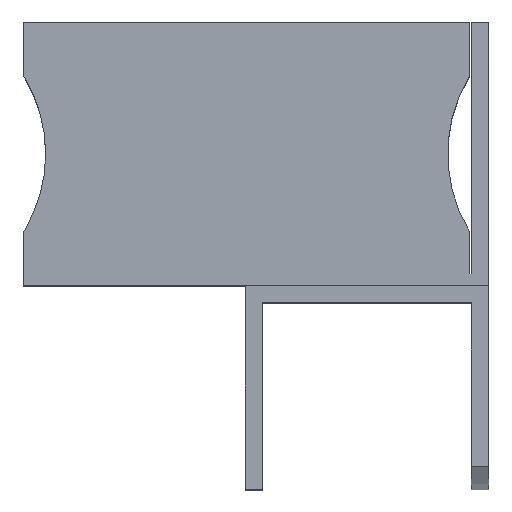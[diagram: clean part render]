
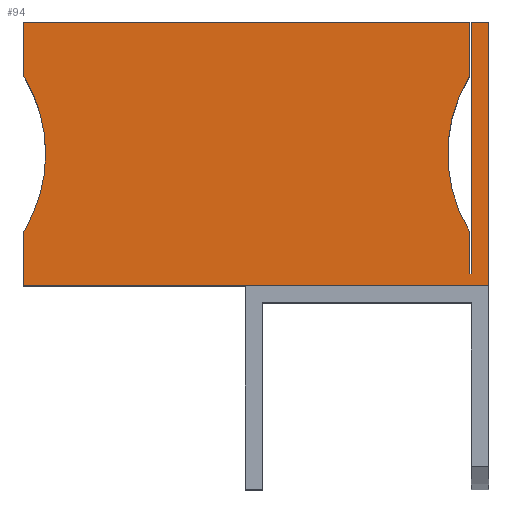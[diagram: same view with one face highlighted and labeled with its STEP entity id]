
A CAD part, top view. The second image highlights one B-rep face of the part: STEP entity #94.
In plain terms, the highlighted planar face has unit normal (0, 0, 1).
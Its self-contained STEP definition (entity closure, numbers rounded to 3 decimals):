
#2 = VECTOR ( 'NONE', #678, 1000. ) ;
#3 = AXIS2_PLACEMENT_3D ( 'NONE', #362, #909, #744 ) ;
#30 = DIRECTION ( 'NONE',  ( -1., 0., 0. ) ) ;
#42 = EDGE_CURVE ( 'NONE', #784, #576, #541, .T. ) ;
#57 = DIRECTION ( 'NONE',  ( -1., 0., 0. ) ) ;
#90 = CARTESIAN_POINT ( 'NONE',  ( 14., 51.6, 22.1 ) ) ;
#94 = ADVANCED_FACE ( 'NONE', ( #796 ), #235, .T. ) ;
#101 = AXIS2_PLACEMENT_3D ( 'NONE', #396, #957, #30 ) ;
#106 = VERTEX_POINT ( 'NONE', #158 ) ;
#117 = VERTEX_POINT ( 'NONE', #534 ) ;
#123 = ORIENTED_EDGE ( 'NONE', *, *, #197, .F. ) ;
#156 = CARTESIAN_POINT ( 'NONE',  ( 14., 17.9, 22.1 ) ) ;
#158 = CARTESIAN_POINT ( 'NONE',  ( 16.3, 16.3, 22.1 ) ) ;
#183 = AXIS2_PLACEMENT_3D ( 'NONE', #1168, #1096, #786 ) ;
#185 = EDGE_CURVE ( 'NONE', #383, #309, #368, .T. ) ;
#197 = EDGE_CURVE ( 'NONE', #876, #784, #700, .T. ) ;
#214 = ORIENTED_EDGE ( 'NONE', *, *, #874, .F. ) ;
#226 = DIRECTION ( 'NONE',  ( 0., 1., 0. ) ) ;
#235 = PLANE ( 'NONE',  #183 ) ;
#245 = EDGE_CURVE ( 'NONE', #409, #383, #657, .T. ) ;
#256 = CARTESIAN_POINT ( 'NONE',  ( 14., 51.6, 22.1 ) ) ;
#275 = VECTOR ( 'NONE', #277, 1000. ) ;
#277 = DIRECTION ( 'NONE',  ( 1., 0., 0. ) ) ;
#292 = VECTOR ( 'NONE', #313, 1000. ) ;
#309 = VERTEX_POINT ( 'NONE', #1033 ) ;
#313 = DIRECTION ( 'NONE',  ( 0., -1., 0. ) ) ;
#324 = LINE ( 'NONE', #330, #292 ) ;
#325 = ORIENTED_EDGE ( 'NONE', *, *, #433, .F. ) ;
#326 = CARTESIAN_POINT ( 'NONE',  ( 14., 51.6, 22.1 ) ) ;
#329 = EDGE_CURVE ( 'NONE', #410, #876, #889, .T. ) ;
#330 = CARTESIAN_POINT ( 'NONE',  ( 13.8, 51.6, 22.1 ) ) ;
#332 = CARTESIAN_POINT ( 'NONE',  ( -46., 23.45, 22.1 ) ) ;
#362 = CARTESIAN_POINT ( 'NONE',  ( 30.822, 33.95, 22.1 ) ) ;
#368 = LINE ( 'NONE', #90, #275 ) ;
#373 = VECTOR ( 'NONE', #226, 1000. ) ;
#378 = ORIENTED_EDGE ( 'NONE', *, *, #461, .F. ) ;
#383 = VERTEX_POINT ( 'NONE', #326 ) ;
#391 = ORIENTED_EDGE ( 'NONE', *, *, #833, .T. ) ;
#396 = CARTESIAN_POINT ( 'NONE',  ( -63.022, 33.95, 22.1 ) ) ;
#409 = VERTEX_POINT ( 'NONE', #430 ) ;
#410 = VERTEX_POINT ( 'NONE', #332 ) ;
#423 = ORIENTED_EDGE ( 'NONE', *, *, #491, .T. ) ;
#424 = DIRECTION ( 'NONE',  ( 0., 1., 0. ) ) ;
#430 = CARTESIAN_POINT ( 'NONE',  ( 14., 17.9, 22.1 ) ) ;
#433 = EDGE_CURVE ( 'NONE', #106, #1137, #1090, .T. ) ;
#440 = CIRCLE ( 'NONE', #3, 20. ) ;
#441 = DIRECTION ( 'NONE',  ( 0., 1., 0. ) ) ;
#448 = CARTESIAN_POINT ( 'NONE',  ( -46., 44.45, 22.1 ) ) ;
#452 = CARTESIAN_POINT ( 'NONE',  ( 14., 16.3, 22.1 ) ) ;
#461 = EDGE_CURVE ( 'NONE', #719, #409, #631, .T. ) ;
#466 = EDGE_CURVE ( 'NONE', #1137, #410, #614, .T. ) ;
#477 = CARTESIAN_POINT ( 'NONE',  ( 13.8, 51.6, 22.1 ) ) ;
#491 = EDGE_CURVE ( 'NONE', #106, #309, #1067, .T. ) ;
#534 = CARTESIAN_POINT ( 'NONE',  ( 13.8, 44.45, 22.1 ) ) ;
#541 = LINE ( 'NONE', #1186, #983 ) ;
#554 = DIRECTION ( 'NONE',  ( -1., 0., 0. ) ) ;
#555 = EDGE_CURVE ( 'NONE', #816, #719, #852, .T. ) ;
#576 = VERTEX_POINT ( 'NONE', #938 ) ;
#614 = LINE ( 'NONE', #702, #1060 ) ;
#631 = LINE ( 'NONE', #156, #752 ) ;
#647 = VECTOR ( 'NONE', #746, 1000. ) ;
#652 = EDGE_CURVE ( 'NONE', #766, #117, #324, .T. ) ;
#657 = LINE ( 'NONE', #452, #647 ) ;
#663 = CARTESIAN_POINT ( 'NONE',  ( -63.022, 33.95, 22.1 ) ) ;
#666 = ORIENTED_EDGE ( 'NONE', *, *, #652, .F. ) ;
#678 = DIRECTION ( 'NONE',  ( 0., -1., 0. ) ) ;
#684 = ORIENTED_EDGE ( 'NONE', *, *, #555, .F. ) ;
#700 = CIRCLE ( 'NONE', #1122, 20. ) ;
#702 = CARTESIAN_POINT ( 'NONE',  ( -46., 16.3, 22.1 ) ) ;
#709 = CARTESIAN_POINT ( 'NONE',  ( 14., 16.3, 22.1 ) ) ;
#719 = VERTEX_POINT ( 'NONE', #955 ) ;
#744 = DIRECTION ( 'NONE',  ( 1., 0., 0. ) ) ;
#746 = DIRECTION ( 'NONE',  ( 0., 1., 0. ) ) ;
#752 = VECTOR ( 'NONE', #1184, 1000. ) ;
#766 = VERTEX_POINT ( 'NONE', #1055 ) ;
#780 = ORIENTED_EDGE ( 'NONE', *, *, #466, .F. ) ;
#784 = VERTEX_POINT ( 'NONE', #448 ) ;
#786 = DIRECTION ( 'NONE',  ( 1., 0., 0. ) ) ;
#796 = FACE_OUTER_BOUND ( 'NONE', #869, .T. ) ;
#816 = VERTEX_POINT ( 'NONE', #1193 ) ;
#827 = DIRECTION ( 'NONE',  ( 0., 0., 1. ) ) ;
#833 = EDGE_CURVE ( 'NONE', #766, #576, #1188, .T. ) ;
#852 = LINE ( 'NONE', #477, #2 ) ;
#854 = ORIENTED_EDGE ( 'NONE', *, *, #245, .F. ) ;
#869 = EDGE_LOOP ( 'NONE', ( #214, #666, #391, #1052, #123, #1159, #780, #325, #423, #1001, #854, #378, #684 ) ) ;
#874 = EDGE_CURVE ( 'NONE', #117, #816, #440, .T. ) ;
#876 = VERTEX_POINT ( 'NONE', #1110 ) ;
#882 = CARTESIAN_POINT ( 'NONE',  ( 16.3, 16.3, 22.1 ) ) ;
#889 = CIRCLE ( 'NONE', #101, 20. ) ;
#909 = DIRECTION ( 'NONE',  ( 0., 0., 1. ) ) ;
#938 = CARTESIAN_POINT ( 'NONE',  ( -46., 51.6, 22.1 ) ) ;
#954 = CARTESIAN_POINT ( 'NONE',  ( -46., 16.3, 22.1 ) ) ;
#955 = CARTESIAN_POINT ( 'NONE',  ( 13.8, 17.9, 22.1 ) ) ;
#957 = DIRECTION ( 'NONE',  ( 0., 0., 1. ) ) ;
#983 = VECTOR ( 'NONE', #441, 1000. ) ;
#1001 = ORIENTED_EDGE ( 'NONE', *, *, #185, .F. ) ;
#1033 = CARTESIAN_POINT ( 'NONE',  ( 16.3, 51.6, 22.1 ) ) ;
#1052 = ORIENTED_EDGE ( 'NONE', *, *, #42, .F. ) ;
#1055 = CARTESIAN_POINT ( 'NONE',  ( 13.8, 51.6, 22.1 ) ) ;
#1060 = VECTOR ( 'NONE', #424, 1000. ) ;
#1062 = VECTOR ( 'NONE', #57, 1000. ) ;
#1067 = LINE ( 'NONE', #882, #373 ) ;
#1090 = LINE ( 'NONE', #709, #1160 ) ;
#1096 = DIRECTION ( 'NONE',  ( 0., 0., 1. ) ) ;
#1110 = CARTESIAN_POINT ( 'NONE',  ( -43.022, 33.95, 22.1 ) ) ;
#1122 = AXIS2_PLACEMENT_3D ( 'NONE', #663, #827, #554 ) ;
#1137 = VERTEX_POINT ( 'NONE', #954 ) ;
#1159 = ORIENTED_EDGE ( 'NONE', *, *, #329, .F. ) ;
#1160 = VECTOR ( 'NONE', #1179, 1000. ) ;
#1168 = CARTESIAN_POINT ( 'NONE',  ( 14., 16.3, 22.1 ) ) ;
#1179 = DIRECTION ( 'NONE',  ( -1., 0., 0. ) ) ;
#1184 = DIRECTION ( 'NONE',  ( 1., 0., 0. ) ) ;
#1186 = CARTESIAN_POINT ( 'NONE',  ( -46., 16.3, 22.1 ) ) ;
#1188 = LINE ( 'NONE', #256, #1062 ) ;
#1193 = CARTESIAN_POINT ( 'NONE',  ( 13.8, 23.45, 22.1 ) ) ;
